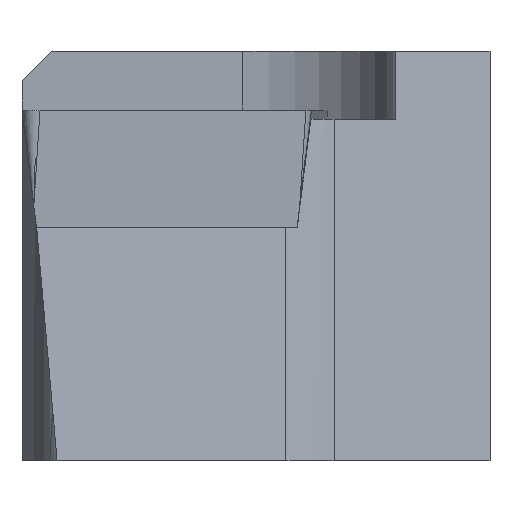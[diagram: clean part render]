
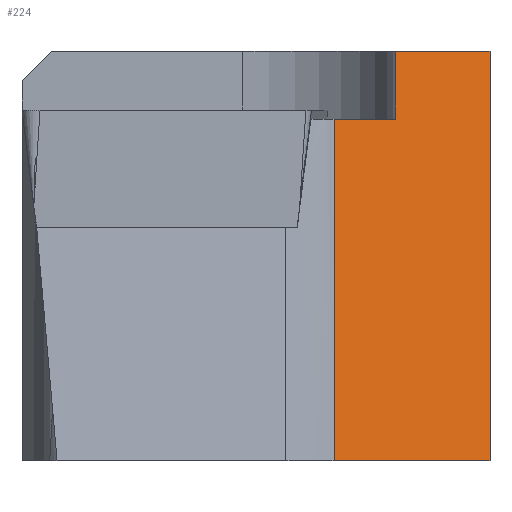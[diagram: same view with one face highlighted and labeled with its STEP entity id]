
A CAD part, left-side view. The second image highlights one B-rep face of the part: STEP entity #224.
In plain terms, the highlighted planar face has unit normal (-0.848, -0.53, 0).
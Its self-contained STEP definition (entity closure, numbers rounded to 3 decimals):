
#180=PLANE('',#1567);
#224=ADVANCED_FACE('',(#324),#180,.T.);
#324=FACE_OUTER_BOUND('',#399,.T.);
#399=EDGE_LOOP('',(#599,#600,#601,#602,#603,#604));
#599=ORIENTED_EDGE('',*,*,#1055,.F.);
#600=ORIENTED_EDGE('',*,*,#1070,.T.);
#601=ORIENTED_EDGE('',*,*,#1071,.T.);
#602=ORIENTED_EDGE('',*,*,#1068,.F.);
#603=ORIENTED_EDGE('',*,*,#1047,.T.);
#604=ORIENTED_EDGE('',*,*,#1072,.T.);
#903=VERTEX_POINT('',#2276);
#904=VERTEX_POINT('',#2278);
#910=VERTEX_POINT('',#2293);
#911=VERTEX_POINT('',#2295);
#918=VERTEX_POINT('',#2319);
#919=VERTEX_POINT('',#2323);
#1047=EDGE_CURVE('',#904,#903,#1311,.T.);
#1055=EDGE_CURVE('',#910,#911,#1317,.T.);
#1068=EDGE_CURVE('',#904,#918,#1329,.T.);
#1070=EDGE_CURVE('',#910,#919,#1330,.T.);
#1071=EDGE_CURVE('',#919,#918,#1331,.T.);
#1072=EDGE_CURVE('',#903,#911,#1332,.T.);
#1311=LINE('',#2277,#1399);
#1317=LINE('',#2294,#1405);
#1329=LINE('',#2318,#1417);
#1330=LINE('',#2322,#1418);
#1331=LINE('',#2324,#1419);
#1332=LINE('',#2325,#1420);
#1399=VECTOR('',#1821,1.);
#1405=VECTOR('',#1835,1.);
#1417=VECTOR('',#1857,1.);
#1418=VECTOR('',#1862,1.);
#1419=VECTOR('',#1863,1.);
#1420=VECTOR('',#1864,1.);
#1567=AXIS2_PLACEMENT_3D('',#2326,#1865,#1866);
#1821=DIRECTION('',(0.53,-0.848,0.));
#1835=DIRECTION('',(0.53,-0.848,0.));
#1857=DIRECTION('',(0.,0.,1.));
#1862=DIRECTION('',(0.,0.,-1.));
#1863=DIRECTION('',(-0.53,0.848,0.));
#1864=DIRECTION('',(0.,0.,1.));
#1865=DIRECTION('',(-0.848,-0.53,0.));
#1866=DIRECTION('',(0.53,-0.848,0.));
#2276=CARTESIAN_POINT('',(-12.062,-5.9,-5.9));
#2277=CARTESIAN_POINT('',(-11.327,-7.078,-5.9));
#2278=CARTESIAN_POINT('',(-15.372,-0.603,-5.9));
#2293=CARTESIAN_POINT('',(-14.062,-2.7,8.));
#2294=CARTESIAN_POINT('',(-11.327,-7.078,8.));
#2295=CARTESIAN_POINT('',(-12.062,-5.9,8.));
#2318=CARTESIAN_POINT('',(-15.372,-0.603,31.));
#2319=CARTESIAN_POINT('',(-15.372,-0.603,5.7));
#2322=CARTESIAN_POINT('',(-14.062,-2.7,31.));
#2323=CARTESIAN_POINT('',(-14.062,-2.7,5.7));
#2324=CARTESIAN_POINT('',(-9.5,-10.,5.7));
#2325=CARTESIAN_POINT('',(-12.062,-5.9,6.));
#2326=CARTESIAN_POINT('',(-9.5,-10.,31.));
